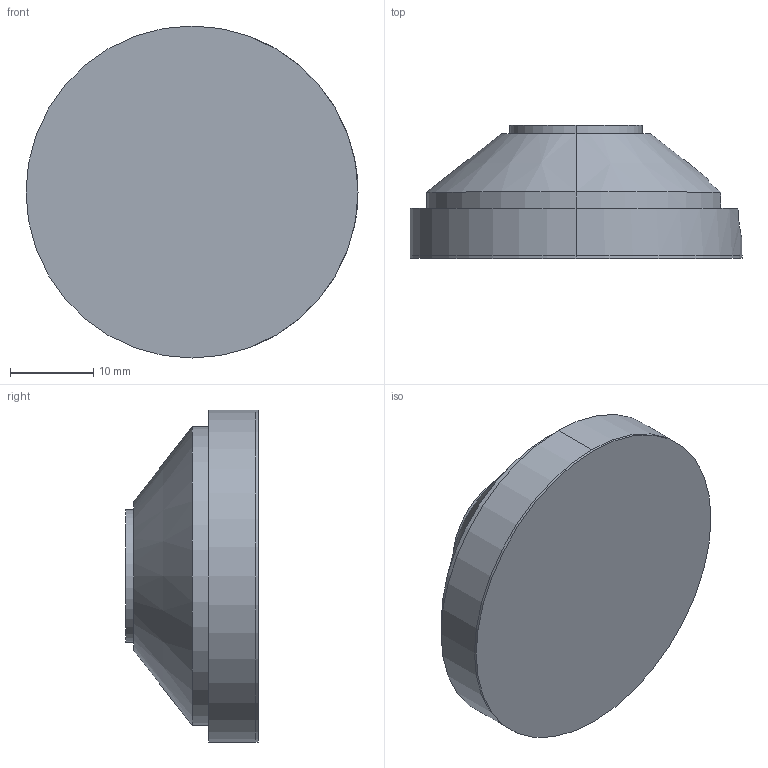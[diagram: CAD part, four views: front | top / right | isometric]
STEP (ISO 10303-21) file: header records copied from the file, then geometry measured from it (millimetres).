
FILE_DESCRIPTION (( 'STEP AP203' ), '1' );
FILE_NAME ('EZ-0053-040 Standardlager Bestell-Nr. 0002427.STEP', '2021-09-16T15:21:25', ( '' ), ( '' ), 'SwSTEP 2.0', 'SolidWorks 2021', '' );
FILE_SCHEMA (( 'CONFIG_CONTROL_DESIGN' ));
Length unit declared in the file: millimetre
Products named in the file (1): EZ-0053-040 Standardlager  Bestell-Nr. 0002427
Bounding box: 40 x 16 x 40 mm (x, y, z)
Volume: 13577.9 mm3; surface area: 6750 mm2
Topology: 4 solids, 4 shells, 77 faces, 176 edges, 111 vertices
Faces by surface type: cylinder 34, plane 23, cone 10, torus 8, sphere 2
Entity records: 2328 total; most frequent: CARTESIAN_POINT 451, DIRECTION 416, ORIENTED_EDGE 348, AXIS2_PLACEMENT_3D 176, EDGE_CURVE 174, VERTEX_POINT 111, CIRCLE 98, EDGE_LOOP 87
